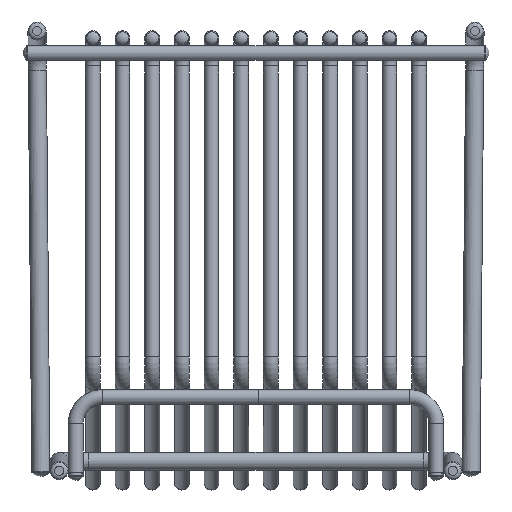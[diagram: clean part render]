
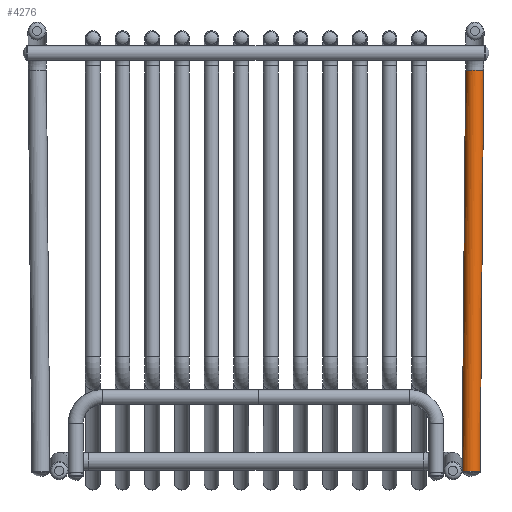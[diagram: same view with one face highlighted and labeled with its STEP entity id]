
A CAD part, front view. The second image highlights one B-rep face of the part: STEP entity #4276.
In plain terms, the highlighted cylindrical face has radius 11 mm (diameter 22 mm), a full revolution.
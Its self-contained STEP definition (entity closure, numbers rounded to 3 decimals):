
#4276=ADVANCED_FACE('',(#5122,#5123),#5124,.T.);
#5122=FACE_OUTER_BOUND('',#6045,.T.);
#5123=FACE_OUTER_BOUND('',#6046,.T.);
#5124=CYLINDRICAL_SURFACE('',#6047,11.0);
#6045=EDGE_LOOP('',(#7541));
#6046=EDGE_LOOP('',(#7542));
#6047=AXIS2_PLACEMENT_3D('',#7543,#7544,#7545);
#7541=ORIENTED_EDGE('',*,*,#8006,.T.);
#7542=ORIENTED_EDGE('',*,*,#8001,.T.);
#7543=CARTESIAN_POINT('',(525.415,643.037,-56.616));
#7544=DIRECTION('',(-0.009,-0.028,-1.));
#7545=DIRECTION('',(0.,1.,-0.028));
#8001=EDGE_CURVE('',#8550,#8550,#8551,.T.);
#8006=EDGE_CURVE('',#8560,#8560,#8561,.T.);
#8550=VERTEX_POINT('',#9142);
#8551=CIRCLE('',#9143,11.0);
#8560=VERTEX_POINT('',#9152);
#8561=CIRCLE('',#9153,11.0);
#9142=CARTESIAN_POINT('',(521.162,640.56,-543.943));
#9143=AXIS2_PLACEMENT_3D('',#9987,#9988,#9989);
#9152=CARTESIAN_POINT('',(525.418,632.041,-56.311));
#9153=AXIS2_PLACEMENT_3D('',#10002,#10003,#10004);
#9987=CARTESIAN_POINT('',(521.165,629.564,-543.638));
#9988=DIRECTION('',(0.009,0.028,1.));
#9989=DIRECTION('',(0.,1.,-0.028));
#10002=CARTESIAN_POINT('',(525.415,643.037,-56.616));
#10003=DIRECTION('',(-0.009,-0.028,-1.));
#10004=DIRECTION('',(0.,-1.,0.028));
